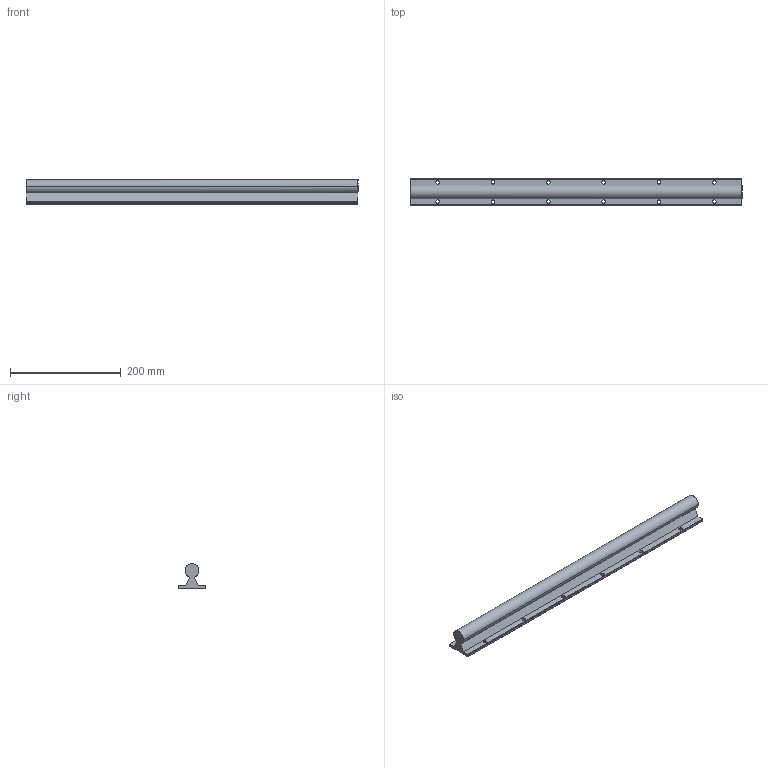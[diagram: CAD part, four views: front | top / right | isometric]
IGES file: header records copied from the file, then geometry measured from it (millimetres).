
Global section: file name: No Iges File Name specified; native system: AutoDesk Inventor R10; preprocessor: AutoDesk Inventor Iges Exporter R10; author: No Author specified; organization: No Organization specified; date: 20101221.090731; units: millimetre
Bounding box: 600 x 48 x 44.5 mm (x, y, z)
Surface area: 115903.7 mm2 (no closed solid volume)
Topology: 0 solids, 0 shells, 146 faces, 988 edges, 976 vertices
Faces by surface type: bspline 146
